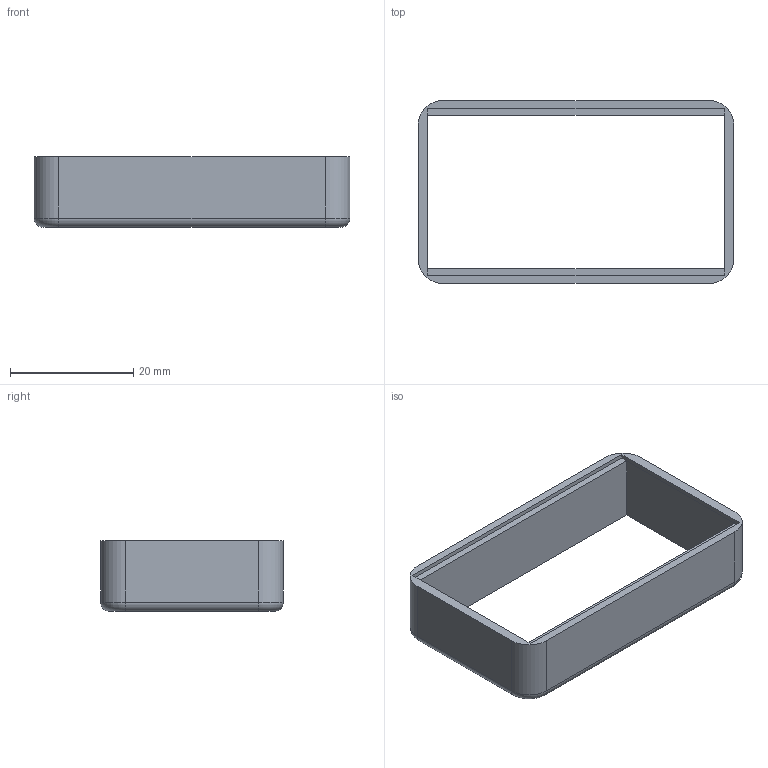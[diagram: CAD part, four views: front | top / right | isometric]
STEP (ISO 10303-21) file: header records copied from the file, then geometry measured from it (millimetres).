
FILE_DESCRIPTION(('Open CASCADE Model'),'2;1');
FILE_NAME('Open CASCADE Shape Model','2026-10-31T23:32:29',('Author'),( 'Open CASCADE'),'Open CASCADE STEP processor 7.7','Open CASCADE 7.7' ,'Unknown');
FILE_SCHEMA(('AUTOMOTIVE_DESIGN { 1 0 10303 214 1 1 1 1 }'));
Length unit declared in the file: millimetre
Products named in the file (1): SOLID
Bounding box: 51.2 x 29.64 x 11.46 mm (x, y, z)
Volume: 3420.3 mm3; surface area: 3967.7 mm2
Topology: 1 solids, 1 shells, 35 faces, 86 edges, 52 vertices
Faces by surface type: plane 23, cylinder 8, torus 4
Entity records: 2704 total; most frequent: CARTESIAN_POINT 1062, DIRECTION 278, ORIENTED_EDGE 172, PCURVE 172, DEFINITIONAL_REPRESENTATION 172, LINE 154, VECTOR 154, EDGE_CURVE 86
